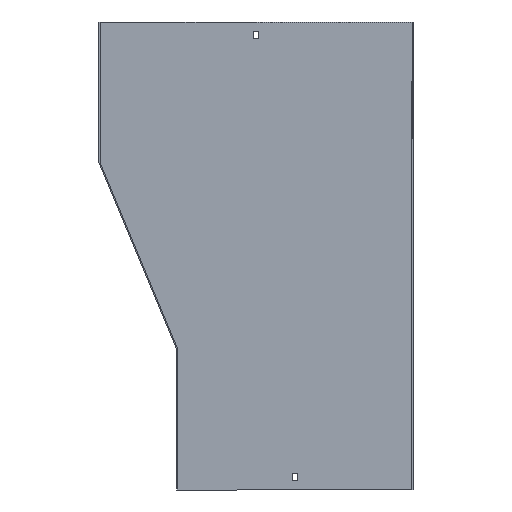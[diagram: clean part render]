
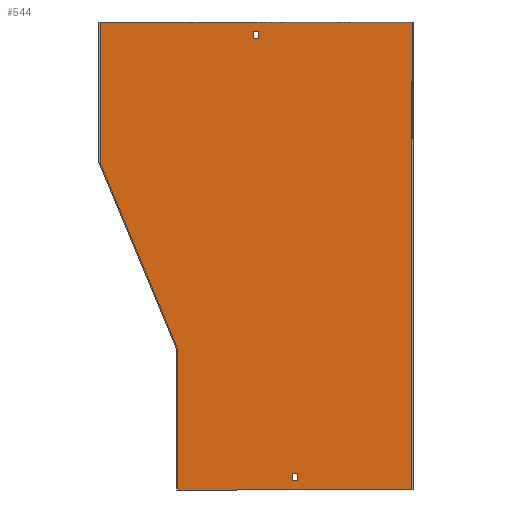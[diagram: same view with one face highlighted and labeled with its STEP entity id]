
A CAD part, front view. The second image highlights one B-rep face of the part: STEP entity #544.
In plain terms, the highlighted planar face has unit normal (0, -1, 0).
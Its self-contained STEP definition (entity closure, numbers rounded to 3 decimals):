
#1 = LINE ( 'NONE', #277, #236 ) ;
#15 = VECTOR ( 'NONE', #153, 1000. ) ;
#16 = VECTOR ( 'NONE', #238, 1000. ) ;
#17 = VECTOR ( 'NONE', #342, 1000. ) ;
#22 = CARTESIAN_POINT ( 'NONE',  ( 200., -1.5, -600. ) ) ;
#26 = EDGE_CURVE ( 'NONE', #456, #296, #381, .T. ) ;
#33 = VERTEX_POINT ( 'NONE', #319 ) ;
#34 = LINE ( 'NONE', #253, #279 ) ;
#36 = VERTEX_POINT ( 'NONE', #494 ) ;
#56 = EDGE_CURVE ( 'NONE', #291, #203, #713, .T. ) ;
#57 = VECTOR ( 'NONE', #178, 1000. ) ;
#66 = DIRECTION ( 'NONE',  ( 0., -1., 0. ) ) ;
#69 = LINE ( 'NONE', #230, #16 ) ;
#74 = LINE ( 'NONE', #235, #181 ) ;
#76 = CARTESIAN_POINT ( 'NONE',  ( 201.5, -1.5, 0. ) ) ;
#81 = LINE ( 'NONE', #300, #439 ) ;
#84 = EDGE_CURVE ( 'NONE', #496, #36, #1, .T. ) ;
#85 = VERTEX_POINT ( 'NONE', #612 ) ;
#90 = CARTESIAN_POINT ( 'NONE',  ( 46.75, -1.5, -588. ) ) ;
#99 = ORIENTED_EDGE ( 'NONE', *, *, #677, .F. ) ;
#101 = ORIENTED_EDGE ( 'NONE', *, *, #26, .F. ) ;
#109 = EDGE_CURVE ( 'NONE', #254, #291, #425, .T. ) ;
#116 = LINE ( 'NONE', #337, #388 ) ;
#132 = VERTEX_POINT ( 'NONE', #22 ) ;
#138 = ORIENTED_EDGE ( 'NONE', *, *, #281, .F. ) ;
#142 = VERTEX_POINT ( 'NONE', #562 ) ;
#144 = ORIENTED_EDGE ( 'NONE', *, *, #182, .F. ) ;
#153 = DIRECTION ( 'NONE',  ( -1., 0., 0. ) ) ;
#156 = DIRECTION ( 'NONE',  ( 0., 0., 1. ) ) ;
#157 = CARTESIAN_POINT ( 'NONE',  ( -100., -1.5, -419.7 ) ) ;
#159 = EDGE_CURVE ( 'NONE', #33, #132, #69, .T. ) ;
#167 = EDGE_CURVE ( 'NONE', #36, #591, #116, .T. ) ;
#170 = DIRECTION ( 'NONE',  ( 0., 0., 1. ) ) ;
#178 = DIRECTION ( 'NONE',  ( 0., 0., 1. ) ) ;
#181 = VECTOR ( 'NONE', #681, 1000. ) ;
#182 = EDGE_CURVE ( 'NONE', #412, #254, #450, .T. ) ;
#203 = VERTEX_POINT ( 'NONE', #376 ) ;
#204 = CARTESIAN_POINT ( 'NONE',  ( 53.25, -1.5, -579. ) ) ;
#208 = CARTESIAN_POINT ( 'NONE',  ( -100., -1.5, -600. ) ) ;
#219 = VECTOR ( 'NONE', #244, 1000. ) ;
#222 = DIRECTION ( 'NONE',  ( 0., 0., -1. ) ) ;
#230 = CARTESIAN_POINT ( 'NONE',  ( 200., -1.5, -600. ) ) ;
#233 = ORIENTED_EDGE ( 'NONE', *, *, #159, .F. ) ;
#235 = CARTESIAN_POINT ( 'NONE',  ( -200., -1.5, 0. ) ) ;
#236 = VECTOR ( 'NONE', #500, 1000. ) ;
#237 = CARTESIAN_POINT ( 'NONE',  ( 46.75, -1.5, -579. ) ) ;
#238 = DIRECTION ( 'NONE',  ( 0., 0., -1. ) ) ;
#244 = DIRECTION ( 'NONE',  ( 0., 0., -1. ) ) ;
#253 = CARTESIAN_POINT ( 'NONE',  ( -200.115, -1.5, -179.423 ) ) ;
#254 = VERTEX_POINT ( 'NONE', #237 ) ;
#257 = VECTOR ( 'NONE', #156, 1000. ) ;
#263 = CARTESIAN_POINT ( 'NONE',  ( 0., -1.5, -588. ) ) ;
#277 = CARTESIAN_POINT ( 'NONE',  ( -3.25, -1.5, 0. ) ) ;
#279 = VECTOR ( 'NONE', #588, 1000. ) ;
#281 = EDGE_CURVE ( 'NONE', #142, #33, #519, .T. ) ;
#291 = VERTEX_POINT ( 'NONE', #90 ) ;
#296 = VERTEX_POINT ( 'NONE', #157 ) ;
#300 = CARTESIAN_POINT ( 'NONE',  ( -101.5, -1.5, -600. ) ) ;
#301 = ORIENTED_EDGE ( 'NONE', *, *, #460, .F. ) ;
#319 = CARTESIAN_POINT ( 'NONE',  ( 200., -1.5, 0. ) ) ;
#321 = PLANE ( 'NONE',  #358 ) ;
#335 = CARTESIAN_POINT ( 'NONE',  ( 53.25, -1.5, 0. ) ) ;
#337 = CARTESIAN_POINT ( 'NONE',  ( 0., -1.5, -21. ) ) ;
#342 = DIRECTION ( 'NONE',  ( 1., 0., 0. ) ) ;
#352 = EDGE_CURVE ( 'NONE', #132, #456, #81, .T. ) ;
#358 = AXIS2_PLACEMENT_3D ( 'NONE', #716, #66, #222 ) ;
#368 = EDGE_LOOP ( 'NONE', ( #473, #144, #99, #642 ) ) ;
#376 = CARTESIAN_POINT ( 'NONE',  ( 53.25, -1.5, -588. ) ) ;
#380 = CARTESIAN_POINT ( 'NONE',  ( 3.25, -1.5, 0. ) ) ;
#381 = LINE ( 'NONE', #430, #565 ) ;
#387 = DIRECTION ( 'NONE',  ( 1., 0., 0. ) ) ;
#388 = VECTOR ( 'NONE', #387, 1000. ) ;
#391 = ORIENTED_EDGE ( 'NONE', *, *, #657, .F. ) ;
#406 = ORIENTED_EDGE ( 'NONE', *, *, #409, .F. ) ;
#407 = VERTEX_POINT ( 'NONE', #652 ) ;
#409 = EDGE_CURVE ( 'NONE', #296, #407, #34, .T. ) ;
#412 = VERTEX_POINT ( 'NONE', #204 ) ;
#414 = ORIENTED_EDGE ( 'NONE', *, *, #557, .F. ) ;
#416 = ORIENTED_EDGE ( 'NONE', *, *, #352, .F. ) ;
#418 = LINE ( 'NONE', #656, #15 ) ;
#425 = LINE ( 'NONE', #661, #219 ) ;
#430 = CARTESIAN_POINT ( 'NONE',  ( -100., -1.5, -420. ) ) ;
#438 = VECTOR ( 'NONE', #616, 1000. ) ;
#439 = VECTOR ( 'NONE', #644, 1000. ) ;
#450 = LINE ( 'NONE', #509, #638 ) ;
#456 = VERTEX_POINT ( 'NONE', #208 ) ;
#460 = EDGE_CURVE ( 'NONE', #85, #496, #418, .T. ) ;
#465 = ORIENTED_EDGE ( 'NONE', *, *, #84, .F. ) ;
#469 = ORIENTED_EDGE ( 'NONE', *, *, #167, .F. ) ;
#473 = ORIENTED_EDGE ( 'NONE', *, *, #109, .F. ) ;
#484 = FACE_OUTER_BOUND ( 'NONE', #648, .T. ) ;
#494 = CARTESIAN_POINT ( 'NONE',  ( -3.25, -1.5, -21. ) ) ;
#496 = VERTEX_POINT ( 'NONE', #712 ) ;
#500 = DIRECTION ( 'NONE',  ( 0., 0., -1. ) ) ;
#509 = CARTESIAN_POINT ( 'NONE',  ( 0., -1.5, -579. ) ) ;
#519 = LINE ( 'NONE', #76, #17 ) ;
#541 = FACE_BOUND ( 'NONE', #704, .T. ) ;
#544 = ADVANCED_FACE ( 'NONE', ( #614, #541, #484 ), #321, .T. ) ;
#557 = EDGE_CURVE ( 'NONE', #591, #85, #601, .T. ) ;
#562 = CARTESIAN_POINT ( 'NONE',  ( -200., -1.5, 0. ) ) ;
#565 = VECTOR ( 'NONE', #170, 1000. ) ;
#588 = DIRECTION ( 'NONE',  ( -0.385, 0., 0.923 ) ) ;
#591 = VERTEX_POINT ( 'NONE', #678 ) ;
#601 = LINE ( 'NONE', #380, #257 ) ;
#612 = CARTESIAN_POINT ( 'NONE',  ( 3.25, -1.5, -12. ) ) ;
#614 = FACE_BOUND ( 'NONE', #368, .T. ) ;
#616 = DIRECTION ( 'NONE',  ( 1., 0., 0. ) ) ;
#634 = LINE ( 'NONE', #335, #57 ) ;
#638 = VECTOR ( 'NONE', #680, 1000. ) ;
#642 = ORIENTED_EDGE ( 'NONE', *, *, #56, .F. ) ;
#644 = DIRECTION ( 'NONE',  ( -1., 0., 0. ) ) ;
#648 = EDGE_LOOP ( 'NONE', ( #138, #391, #406, #101, #416, #233 ) ) ;
#652 = CARTESIAN_POINT ( 'NONE',  ( -200., -1.5, -179.7 ) ) ;
#656 = CARTESIAN_POINT ( 'NONE',  ( 0., -1.5, -12. ) ) ;
#657 = EDGE_CURVE ( 'NONE', #407, #142, #74, .T. ) ;
#661 = CARTESIAN_POINT ( 'NONE',  ( 46.75, -1.5, 0. ) ) ;
#677 = EDGE_CURVE ( 'NONE', #203, #412, #634, .T. ) ;
#678 = CARTESIAN_POINT ( 'NONE',  ( 3.25, -1.5, -21. ) ) ;
#680 = DIRECTION ( 'NONE',  ( -1., 0., 0. ) ) ;
#681 = DIRECTION ( 'NONE',  ( 0., 0., 1. ) ) ;
#704 = EDGE_LOOP ( 'NONE', ( #465, #301, #414, #469 ) ) ;
#712 = CARTESIAN_POINT ( 'NONE',  ( -3.25, -1.5, -12. ) ) ;
#713 = LINE ( 'NONE', #263, #438 ) ;
#716 = CARTESIAN_POINT ( 'NONE',  ( 0., -1.5, 0. ) ) ;
